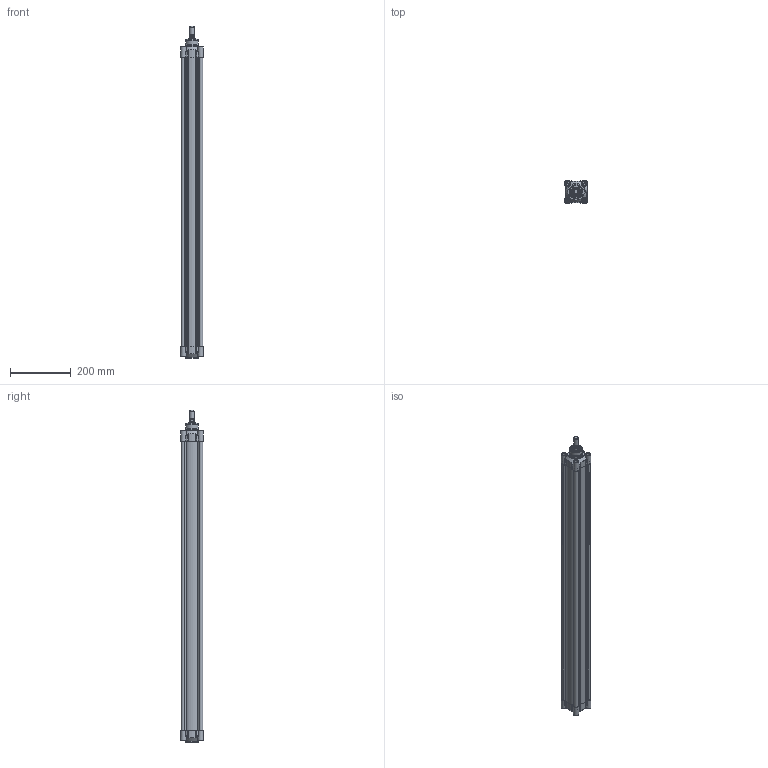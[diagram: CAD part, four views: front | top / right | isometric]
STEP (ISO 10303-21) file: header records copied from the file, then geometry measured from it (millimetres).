
FILE_DESCRIPTION(/* description */ ('CILINDRO D.E. MAGNETICO AMMORTIZZATO ISO 15552'),/* implementation_level */ '2;1');
FILE_NAME(/* name */ 'T:\Archivio Inventor\- 00 NUOVI STP PER SITO CON STELO CHE SI MUOVE\SERIE H - U\SERIE HDM\HDM063 - TUBO NUOVO\HDM063.900.GS.M.stp',/* time_stamp */ '2018-07-30T15:09:12+02:00',/* author */ ('carlo.corazza'),/* organization */ (''),/* preprocessor_version */ 'ST-DEVELOPER v16.5',/* originating_system */ 'Autodesk Inventor 2017',/* authorisation */ '');
FILE_SCHEMA (('AUTOMOTIVE_DESIGN { 1 0 10303 214 3 1 1 }'));
Length unit declared in the file: millimetre
Products named in the file (5): HDM063.900.GS.M; TP; TA; STELO-900; CORPO-900
Assembly tree (4 placements, depth 2):
  HDM063.900.GS.M
    TP
    TA
    STELO-900
    CORPO-900
Bounding box: 75 x 75 x 1094 mm (x, y, z)
Volume: 1456093.1 mm3; surface area: 813255.5 mm2
Topology: 4 solids, 27 shells, 1241 faces, 2936 edges, 1818 vertices
Faces by surface type: plane 368, cylinder 297, bspline 288, torus 108, cone 106, sphere 74
Full cylindrical faces by diameter (mm): 3 x2, 3.4 x2, 4.8 x2, 5.25 x2, 6.647 x8, 8 x8, 8.3 x12, 9.8 x4, 9.9 x2, 10 x6, 12 x3, 13 x8, 13.3 x8, 13.5 x1, 14.95 x2, 16 x1, 19.5 x1, 20 x1, 20.8 x1, 20.847 x1, 24 x1, 26 x2, 30 x3, 42 x1, 45 x2, 63 x1
Entity records: 40768 total; most frequent: CARTESIAN_POINT 13071, ORIENTED_EDGE 5326, DIRECTION 5100, EDGE_CURVE 2663, AXIS2_PLACEMENT_3D 2037, VERTEX_POINT 1763, EDGE_LOOP 1576, STYLED_ITEM 1245
